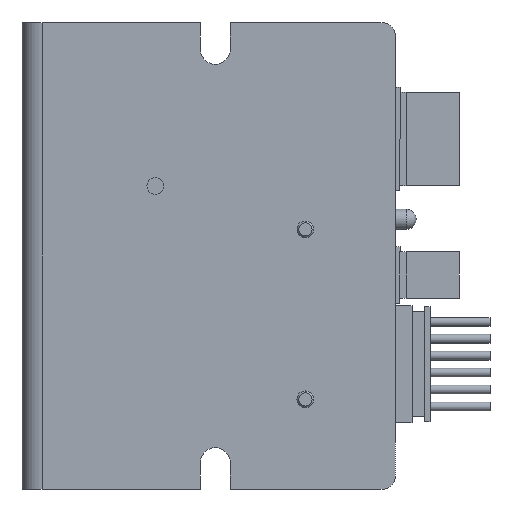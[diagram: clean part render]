
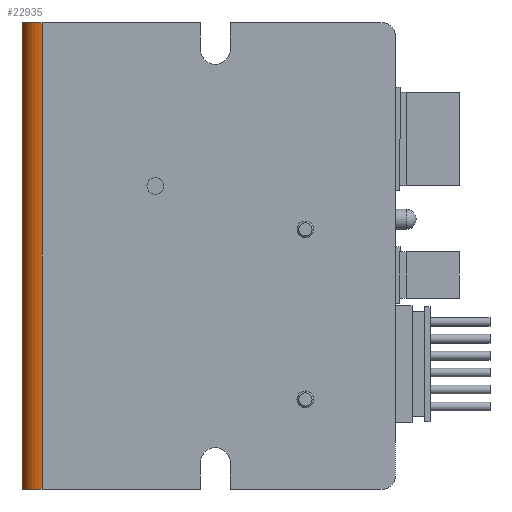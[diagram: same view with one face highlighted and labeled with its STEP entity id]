
A CAD part, front view. The second image highlights one B-rep face of the part: STEP entity #22935.
In plain terms, the highlighted cylindrical face has radius 3 mm (diameter 6 mm), a partial arc.
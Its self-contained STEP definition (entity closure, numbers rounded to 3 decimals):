
#1803 = AXIS2_PLACEMENT_3D ( 'NONE', #78113, #40253, #2326 ) ;
#1952 = EDGE_CURVE ( 'NONE', #75370, #72774, #28505, .T. ) ;
#2326 = DIRECTION ( 'NONE',  ( 1., 0., 0. ) ) ;
#5564 = DIRECTION ( 'NONE',  ( 0., 0., -1. ) ) ;
#9737 = AXIS2_PLACEMENT_3D ( 'NONE', #31569, #25559, #51017 ) ;
#10213 = CARTESIAN_POINT ( 'NONE',  ( -41.94, -17.396, -15. ) ) ;
#11700 = VECTOR ( 'NONE', #76605, 1000. ) ;
#14561 = CARTESIAN_POINT ( 'NONE',  ( -38.94, -20.396, -85. ) ) ;
#14833 = EDGE_LOOP ( 'NONE', ( #25964, #15136, #61267, #75601 ) ) ;
#15136 = ORIENTED_EDGE ( 'NONE', *, *, #1952, .F. ) ;
#15334 = CARTESIAN_POINT ( 'NONE',  ( -38.94, -20.396, -15. ) ) ;
#16512 = CARTESIAN_POINT ( 'NONE',  ( -38.94, -17.396, -85. ) ) ;
#18388 = EDGE_CURVE ( 'NONE', #38345, #67342, #39818, .T. ) ;
#22896 = DIRECTION ( 'NONE',  ( 1., 0., 0. ) ) ;
#22935 = ADVANCED_FACE ( 'NONE', ( #65074 ), #25486, .T. ) ;
#22953 = VECTOR ( 'NONE', #5564, 1000. ) ;
#25486 = CYLINDRICAL_SURFACE ( 'NONE', #9737, 3. ) ;
#25559 = DIRECTION ( 'NONE',  ( 0., 0., -1. ) ) ;
#25964 = ORIENTED_EDGE ( 'NONE', *, *, #53275, .T. ) ;
#27399 = CARTESIAN_POINT ( 'NONE',  ( -41.94, -17.396, -85. ) ) ;
#28505 = LINE ( 'NONE', #64456, #11700 ) ;
#31569 = CARTESIAN_POINT ( 'NONE',  ( -38.94, -17.396, -15. ) ) ;
#36657 = CIRCLE ( 'NONE', #62960, 3. ) ;
#38345 = VERTEX_POINT ( 'NONE', #76542 ) ;
#39818 = LINE ( 'NONE', #10213, #22953 ) ;
#40252 = EDGE_CURVE ( 'NONE', #38345, #75370, #75183, .T. ) ;
#40253 = DIRECTION ( 'NONE',  ( 0., 0., 1. ) ) ;
#51017 = DIRECTION ( 'NONE',  ( -1., 0., 0. ) ) ;
#53275 = EDGE_CURVE ( 'NONE', #67342, #72774, #36657, .T. ) ;
#60872 = DIRECTION ( 'NONE',  ( 0., 0., 1. ) ) ;
#61267 = ORIENTED_EDGE ( 'NONE', *, *, #40252, .F. ) ;
#62960 = AXIS2_PLACEMENT_3D ( 'NONE', #16512, #60872, #22896 ) ;
#64456 = CARTESIAN_POINT ( 'NONE',  ( -38.94, -20.396, -15. ) ) ;
#65074 = FACE_OUTER_BOUND ( 'NONE', #14833, .T. ) ;
#67342 = VERTEX_POINT ( 'NONE', #27399 ) ;
#72774 = VERTEX_POINT ( 'NONE', #14561 ) ;
#75183 = CIRCLE ( 'NONE', #1803, 3. ) ;
#75370 = VERTEX_POINT ( 'NONE', #15334 ) ;
#75601 = ORIENTED_EDGE ( 'NONE', *, *, #18388, .T. ) ;
#76542 = CARTESIAN_POINT ( 'NONE',  ( -41.94, -17.396, -15. ) ) ;
#76605 = DIRECTION ( 'NONE',  ( 0., 0., -1. ) ) ;
#78113 = CARTESIAN_POINT ( 'NONE',  ( -38.94, -17.396, -15. ) ) ;
